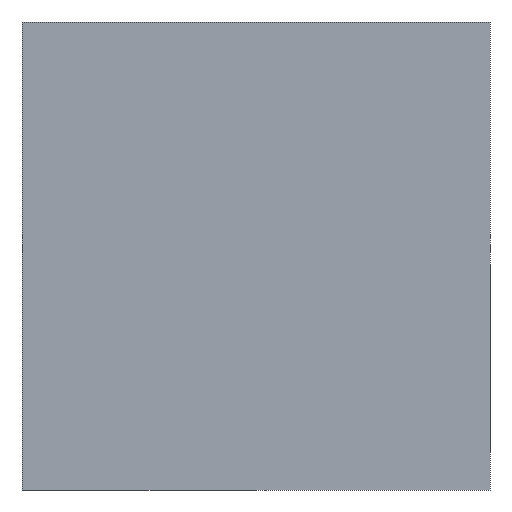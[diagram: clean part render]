
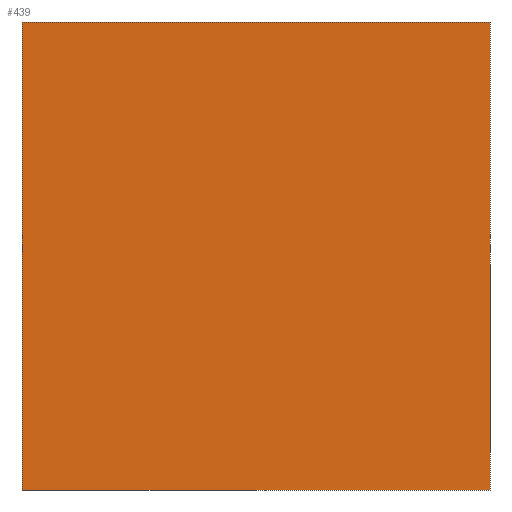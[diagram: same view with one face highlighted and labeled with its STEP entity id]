
A CAD part, left-side view. The second image highlights one B-rep face of the part: STEP entity #439.
In plain terms, the highlighted planar face has unit normal (-1, 0, 0).
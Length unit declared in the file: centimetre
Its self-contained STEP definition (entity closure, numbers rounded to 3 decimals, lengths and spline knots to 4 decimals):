
#6 = LINE ( 'NONE', #890, #983 ) ;
#10 = CARTESIAN_POINT ( 'NONE',  ( 0., 1000., 1000. ) ) ;
#17 = FACE_OUTER_BOUND ( 'NONE', #889, .T. ) ;
#20 = DIRECTION ( 'NONE',  ( 1., 0., 0. ) ) ;
#55 = VERTEX_POINT ( 'NONE', #717 ) ;
#62 = VECTOR ( 'NONE', #104, 100. ) ;
#73 = DIRECTION ( 'NONE',  ( 0., 0., -1. ) ) ;
#98 = CARTESIAN_POINT ( 'NONE',  ( 0., 0., 0. ) ) ;
#104 = DIRECTION ( 'NONE',  ( 0., 0., -1. ) ) ;
#147 = ORIENTED_EDGE ( 'NONE', *, *, #210, .F. ) ;
#151 = CARTESIAN_POINT ( 'NONE',  ( 0., 0., 1000. ) ) ;
#200 = VERTEX_POINT ( 'NONE', #151 ) ;
#210 = EDGE_CURVE ( 'NONE', #200, #505, #6, .T. ) ;
#235 = LINE ( 'NONE', #397, #476 ) ;
#302 = CARTESIAN_POINT ( 'NONE',  ( 0., 1000., 1000. ) ) ;
#316 = EDGE_CURVE ( 'NONE', #55, #505, #511, .T. ) ;
#326 = EDGE_CURVE ( 'NONE', #879, #55, #427, .T. ) ;
#356 = ORIENTED_EDGE ( 'NONE', *, *, #953, .F. ) ;
#397 = CARTESIAN_POINT ( 'NONE',  ( 0., 1000., 1000. ) ) ;
#427 = LINE ( 'NONE', #838, #62 ) ;
#432 = PLANE ( 'NONE',  #858 ) ;
#439 = ADVANCED_FACE ( 'NONE', ( #17 ), #432, .F. ) ;
#465 = ORIENTED_EDGE ( 'NONE', *, *, #316, .T. ) ;
#476 = VECTOR ( 'NONE', #1043, 100. ) ;
#505 = VERTEX_POINT ( 'NONE', #98 ) ;
#511 = LINE ( 'NONE', #834, #880 ) ;
#665 = DIRECTION ( 'NONE',  ( 0., 0., -1. ) ) ;
#674 = DIRECTION ( 'NONE',  ( 0., -1., 0. ) ) ;
#717 = CARTESIAN_POINT ( 'NONE',  ( 0., 1000., 0. ) ) ;
#834 = CARTESIAN_POINT ( 'NONE',  ( 0., 1000., 0. ) ) ;
#838 = CARTESIAN_POINT ( 'NONE',  ( 0., 1000., 1000. ) ) ;
#858 = AXIS2_PLACEMENT_3D ( 'NONE', #10, #20, #665 ) ;
#879 = VERTEX_POINT ( 'NONE', #302 ) ;
#880 = VECTOR ( 'NONE', #674, 100. ) ;
#889 = EDGE_LOOP ( 'NONE', ( #465, #147, #356, #1010 ) ) ;
#890 = CARTESIAN_POINT ( 'NONE',  ( 0., 0., 1000. ) ) ;
#953 = EDGE_CURVE ( 'NONE', #879, #200, #235, .T. ) ;
#983 = VECTOR ( 'NONE', #73, 100. ) ;
#1010 = ORIENTED_EDGE ( 'NONE', *, *, #326, .T. ) ;
#1043 = DIRECTION ( 'NONE',  ( 0., -1., 0. ) ) ;
